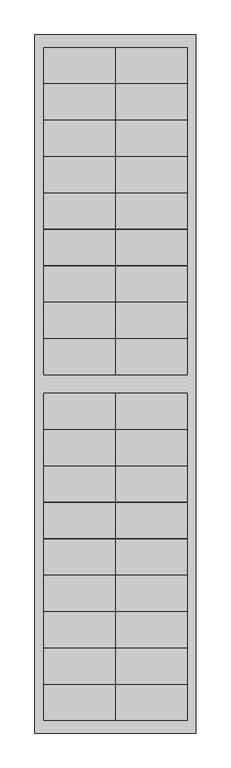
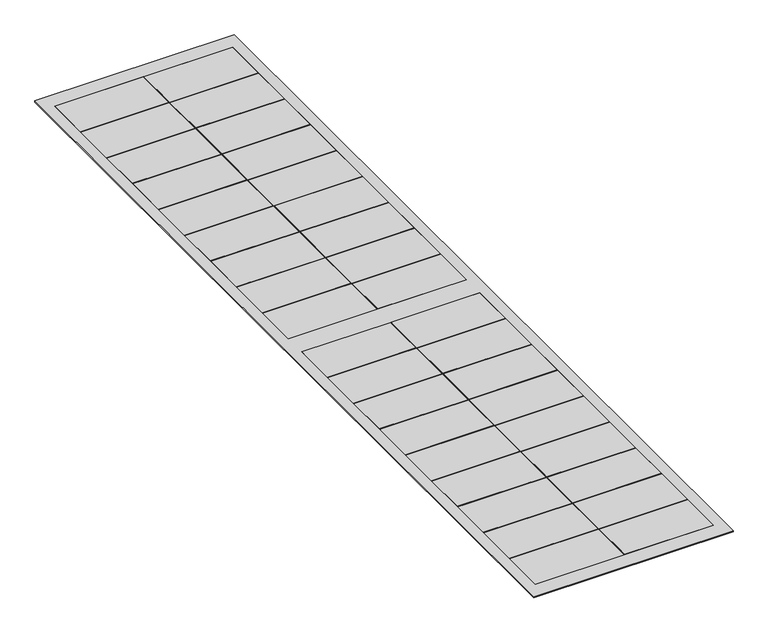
"""IFC4 building model written with IfcOpenShell, lengths in millimetres: proxy geometry, Construction-Roof_Roofit-Solar_nu-click-t-2x18-180 : NuClick T-2x18/180."""

from ifc_helpers import new_model, si_unit, origin, origin_with_axes, place, context, project, spatial, polyline, outline, extrude, source, transform, mapped, element, save


def specialty_equipment_2c5f26d2(model_context):
    return source(origin(), model_context, "Body", "SweptSolid", [
        extrude(outline(polyline([(-1.0, 988.5), (-1.0, 883.5), (-211.2, 883.5), (-211.2, 988.5), (-1.0, 988.5)])), origin_with_axes(), (0.0, 0.0, 1.0), 3.2),
        extrude(outline(polyline([(211.2, 988.5), (211.2, 883.5), (1.0, 883.5), (1.0, 988.5), (211.2, 988.5)])), origin_with_axes(), (0.0, 0.0, 1.0), 3.2),
        extrude(outline(polyline([(-211.2, 776.5), (-211.2, 881.5), (-1.0, 881.5), (-1.0, 776.5), (-211.2, 776.5)])), origin_with_axes(), (0.0, 0.0, 1.0), 3.2),
        extrude(outline(polyline([(1.0, 776.5), (1.0, 881.5), (211.2, 881.5), (211.2, 776.5), (1.0, 776.5)])), origin_with_axes(), (0.0, 0.0, 1.0), 3.2),
        extrude(outline(polyline([(-211.2, 774.5), (-1.0, 774.5), (-1.0, 669.5), (-211.2, 669.5), (-211.2, 774.5)])), origin_with_axes(), (0.0, 0.0, 1.0), 3.2),
        extrude(outline(polyline([(211.2, 669.5), (1.0, 669.5), (1.0, 774.5), (211.2, 774.5), (211.2, 669.5)])), origin_with_axes(), (0.0, 0.0, 1.0), 3.2),
        extrude(outline(polyline([(211.2, 562.5), (1.0, 562.5), (1.0, 667.5), (211.2, 667.5), (211.2, 562.5)])), origin_with_axes(), (0.0, 0.0, 1.0), 3.2),
        extrude(outline(polyline([(-211.2, 667.5), (-1.0, 667.5), (-1.0, 562.5), (-211.2, 562.5), (-211.2, 667.5)])), origin_with_axes(), (0.0, 0.0, 1.0), 3.2),
        extrude(outline(polyline([(-211.2, 560.5), (-1.0, 560.5), (-1.0, 455.5), (-211.2, 455.5), (-211.2, 560.5)])), origin_with_axes(), (0.0, 0.0, 1.0), 3.2),
        extrude(outline(polyline([(211.2, 455.5), (1.0, 455.5), (1.0, 560.5), (211.2, 560.5), (211.2, 455.5)])), origin_with_axes(), (0.0, 0.0, 1.0), 3.2),
        extrude(outline(polyline([(211.2, 348.5), (1.0, 348.5), (1.0, 453.5), (211.2, 453.5), (211.2, 348.5)])), origin_with_axes(), (0.0, 0.0, 1.0), 3.2),
        extrude(outline(polyline([(-211.2, 453.5), (-1.0, 453.5), (-1.0, 348.5), (-211.2, 348.5), (-211.2, 453.5)])), origin_with_axes(), (0.0, 0.0, 1.0), 3.2),
        extrude(outline(polyline([(-211.2, 346.5), (-1.0, 346.5), (-1.0, 241.5), (-211.2, 241.5), (-211.2, 346.5)])), origin_with_axes(), (0.0, 0.0, 1.0), 3.2),
        extrude(outline(polyline([(211.2, 241.5), (1.0, 241.5), (1.0, 346.5), (211.2, 346.5), (211.2, 241.5)])), origin_with_axes(), (0.0, 0.0, 1.0), 3.2),
        extrude(outline(polyline([(211.2, 134.5), (1.0, 134.5), (1.0, 239.5), (211.2, 239.5), (211.2, 134.5)])), origin_with_axes(), (0.0, 0.0, 1.0), 3.2),
        extrude(outline(polyline([(-211.2, 239.5), (-1.0, 239.5), (-1.0, 134.5), (-211.2, 134.5), (-211.2, 239.5)])), origin_with_axes(), (0.0, 0.0, 1.0), 3.2),
        extrude(outline(polyline([(-211.2, 132.5), (-1.0, 132.5), (-1.0, 27.5), (-211.2, 27.5), (-211.2, 132.5)])), origin_with_axes(), (0.0, 0.0, 1.0), 3.2),
        extrude(outline(polyline([(211.2, 27.5), (1.0, 27.5), (1.0, 132.5), (211.2, 132.5), (211.2, 27.5)])), origin_with_axes(), (0.0, 0.0, 1.0), 3.2),
        extrude(outline(polyline([(-211.2, -27.5), (-1.0, -27.5), (-1.0, -132.5), (-211.2, -132.5), (-211.2, -27.5)])), origin_with_axes(), (0.0, 0.0, 1.0), 3.2),
        extrude(outline(polyline([(211.2, -132.5), (1.0, -132.5), (1.0, -27.5), (211.2, -27.5), (211.2, -132.5)])), origin_with_axes(), (0.0, 0.0, 1.0), 3.2),
        extrude(outline(polyline([(211.2, -239.5), (1.0, -239.5), (1.0, -134.5), (211.2, -134.5), (211.2, -239.5)])), origin_with_axes(), (0.0, 0.0, 1.0), 3.2),
        extrude(outline(polyline([(-211.2, -134.5), (-1.0, -134.5), (-1.0, -239.5), (-211.2, -239.5), (-211.2, -134.5)])), origin_with_axes(), (0.0, 0.0, 1.0), 3.2),
        extrude(outline(polyline([(-211.2, -241.5), (-1.0, -241.5), (-1.0, -346.5), (-211.2, -346.5), (-211.2, -241.5)])), origin_with_axes(), (0.0, 0.0, 1.0), 3.2),
        extrude(outline(polyline([(211.2, -346.5), (1.0, -346.5), (1.0, -241.5), (211.2, -241.5), (211.2, -346.5)])), origin_with_axes(), (0.0, 0.0, 1.0), 3.2),
        extrude(outline(polyline([(211.2, -453.5), (1.0, -453.5), (1.0, -348.5), (211.2, -348.5), (211.2, -453.5)])), origin_with_axes(), (0.0, 0.0, 1.0), 3.2),
        extrude(outline(polyline([(-211.2, -348.5), (-1.0, -348.5), (-1.0, -453.5), (-211.2, -453.5), (-211.2, -348.5)])), origin_with_axes(), (0.0, 0.0, 1.0), 3.2),
        extrude(outline(polyline([(-211.2, -455.5), (-1.0, -455.5), (-1.0, -560.5), (-211.2, -560.5), (-211.2, -455.5)])), origin_with_axes(), (0.0, 0.0, 1.0), 3.2),
        extrude(outline(polyline([(211.2, -560.5), (1.0, -560.5), (1.0, -455.5), (211.2, -455.5), (211.2, -560.5)])), origin_with_axes(), (0.0, 0.0, 1.0), 3.2),
        extrude(outline(polyline([(211.2, -667.5), (1.0, -667.5), (1.0, -562.5), (211.2, -562.5), (211.2, -667.5)])), origin_with_axes(), (0.0, 0.0, 1.0), 3.2),
        extrude(outline(polyline([(-211.2, -562.5), (-1.0, -562.5), (-1.0, -667.5), (-211.2, -667.5), (-211.2, -562.5)])), origin_with_axes(), (0.0, 0.0, 1.0), 3.2),
        extrude(outline(polyline([(-211.2, -669.5), (-1.0, -669.5), (-1.0, -774.5), (-211.2, -774.5), (-211.2, -669.5)])), origin_with_axes(), (0.0, 0.0, 1.0), 3.2),
        extrude(outline(polyline([(211.2, -774.5), (1.0, -774.5), (1.0, -669.5), (211.2, -669.5), (211.2, -774.5)])), origin_with_axes(), (0.0, 0.0, 1.0), 3.2),
        extrude(outline(polyline([(-211.2, -776.5), (-1.0, -776.5), (-1.0, -881.5), (-211.2, -881.5), (-211.2, -776.5)])), origin_with_axes(), (0.0, 0.0, 1.0), 3.2),
        extrude(outline(polyline([(211.2, -881.5), (1.0, -881.5), (1.0, -776.5), (211.2, -776.5), (211.2, -881.5)])), origin_with_axes(), (0.0, 0.0, 1.0), 3.2),
        extrude(outline(polyline([(211.2, -988.5), (1.0, -988.5), (1.0, -883.5), (211.2, -883.5), (211.2, -988.5)])), origin_with_axes(), (0.0, 0.0, 1.0), 3.2),
        extrude(outline(polyline([(-211.2, -883.5), (-1.0, -883.5), (-1.0, -988.5), (-211.2, -988.5), (-211.2, -883.5)])), origin_with_axes(), (0.0, 0.0, 1.0), 3.2),
        extrude(outline(polyline([(236.5, 1025.5), (236.5, -1025.5), (-236.5, -1025.5), (-236.5, 1025.5), (236.5, 1025.5)]), holes=[polyline([(1.0, 883.5), (211.2, 883.5), (211.2, 988.5), (1.0, 988.5), (1.0, 883.5)]), polyline([(-1.0, 988.5), (-211.2, 988.5), (-211.2, 883.5), (-1.0, 883.5), (-1.0, 988.5)]), polyline([(1.0, 776.5), (211.2, 776.5), (211.2, 881.5), (1.0, 881.5), (1.0, 776.5)]), polyline([(-1.0, 881.5), (-211.2, 881.5), (-211.2, 776.5), (-1.0, 776.5), (-1.0, 881.5)]), polyline([(1.0, 669.5), (211.2, 669.5), (211.2, 774.5), (1.0, 774.5), (1.0, 669.5)]), polyline([(-1.0, 774.5), (-211.2, 774.5), (-211.2, 669.5), (-1.0, 669.5), (-1.0, 774.5)]), polyline([(1.0, 562.5), (211.2, 562.5), (211.2, 667.5), (1.0, 667.5), (1.0, 562.5)]), polyline([(-1.0, 667.5), (-211.2, 667.5), (-211.2, 562.5), (-1.0, 562.5), (-1.0, 667.5)]), polyline([(1.0, 455.5), (211.2, 455.5), (211.2, 560.5), (1.0, 560.5), (1.0, 455.5)]), polyline([(-1.0, 560.5), (-211.2, 560.5), (-211.2, 455.5), (-1.0, 455.5), (-1.0, 560.5)]), polyline([(1.0, 348.5), (211.2, 348.5), (211.2, 453.5), (1.0, 453.5), (1.0, 348.5)]), polyline([(-1.0, 453.5), (-211.2, 453.5), (-211.2, 348.5), (-1.0, 348.5), (-1.0, 453.5)]), polyline([(1.0, 241.5), (211.2, 241.5), (211.2, 346.5), (1.0, 346.5), (1.0, 241.5)]), polyline([(-1.0, 346.5), (-211.2, 346.5), (-211.2, 241.5), (-1.0, 241.5), (-1.0, 346.5)]), polyline([(1.0, 134.5), (211.2, 134.5), (211.2, 239.5), (1.0, 239.5), (1.0, 134.5)]), polyline([(-1.0, 239.5), (-211.2, 239.5), (-211.2, 134.5), (-1.0, 134.5), (-1.0, 239.5)]), polyline([(1.0, 27.5), (211.2, 27.5), (211.2, 132.5), (1.0, 132.5), (1.0, 27.5)]), polyline([(-1.0, 132.5), (-211.2, 132.5), (-211.2, 27.5), (-1.0, 27.5), (-1.0, 132.5)]), polyline([(1.0, -132.5), (211.2, -132.5), (211.2, -27.5), (1.0, -27.5), (1.0, -132.5)]), polyline([(-1.0, -27.5), (-211.2, -27.5), (-211.2, -132.5), (-1.0, -132.5), (-1.0, -27.5)]), polyline([(1.0, -239.5), (211.2, -239.5), (211.2, -134.5), (1.0, -134.5), (1.0, -239.5)]), polyline([(-1.0, -134.5), (-211.2, -134.5), (-211.2, -239.5), (-1.0, -239.5), (-1.0, -134.5)]), polyline([(1.0, -346.5), (211.2, -346.5), (211.2, -241.5), (1.0, -241.5), (1.0, -346.5)]), polyline([(-1.0, -241.5), (-211.2, -241.5), (-211.2, -346.5), (-1.0, -346.5), (-1.0, -241.5)]), polyline([(1.0, -453.5), (211.2, -453.5), (211.2, -348.5), (1.0, -348.5), (1.0, -453.5)]), polyline([(-1.0, -348.5), (-211.2, -348.5), (-211.2, -453.5), (-1.0, -453.5), (-1.0, -348.5)]), polyline([(1.0, -560.5), (211.2, -560.5), (211.2, -455.5), (1.0, -455.5), (1.0, -560.5)]), polyline([(-1.0, -455.5), (-211.2, -455.5), (-211.2, -560.5), (-1.0, -560.5), (-1.0, -455.5)]), polyline([(1.0, -667.5), (211.2, -667.5), (211.2, -562.5), (1.0, -562.5), (1.0, -667.5)]), polyline([(-1.0, -562.5), (-211.2, -562.5), (-211.2, -667.5), (-1.0, -667.5), (-1.0, -562.5)]), polyline([(1.0, -774.5), (211.2, -774.5), (211.2, -669.5), (1.0, -669.5), (1.0, -774.5)]), polyline([(-1.0, -669.5), (-211.2, -669.5), (-211.2, -774.5), (-1.0, -774.5), (-1.0, -669.5)]), polyline([(1.0, -881.5), (211.2, -881.5), (211.2, -776.5), (1.0, -776.5), (1.0, -881.5)]), polyline([(-1.0, -776.5), (-211.2, -776.5), (-211.2, -881.5), (-1.0, -881.5), (-1.0, -776.5)]), polyline([(1.0, -988.5), (211.2, -988.5), (211.2, -883.5), (1.0, -883.5), (1.0, -988.5)]), polyline([(-1.0, -883.5), (-211.2, -883.5), (-211.2, -988.5), (-1.0, -988.5), (-1.0, -883.5)])]), origin_with_axes(), (0.0, 0.0, 1.0), 3.2),
    ])


if __name__ == "__main__":
    model = new_model("IFC4")
    model_context = context("Model", 3, world=origin())
    ifc_project = project(units=[si_unit("LENGTHUNIT", "METRE", prefix="MILLI")], contexts=[model_context])
    site = spatial("IfcSite", under=ifc_project)
    building = spatial("IfcBuilding", under=site)
    placement = place(None, origin())
    specialty_equipment_shape = specialty_equipment_2c5f26d2(model_context)
    element("IfcBuildingElementProxy", 1, Name="Construction-Roof_Roofit-Solar_nu-click-t-2x18-180 : NuClick T-2x18/180", ObjectType="Construction-Roof_Roofit-Solar_nu-click-t-2x18-180 : NuClick T-2x18/180", at=placement, inside=building, context=model_context, shape_type="MappedRepresentation", body=[
        mapped(specialty_equipment_shape, transform((0.0, 0.0, 0.0), x_axis=(1.0, 0.0, 0.0), y_axis=(0.0, 1.0, 0.0), z_axis=(0.0, 0.0, 1.0))),
    ])
    save(model, "model.ifc")
